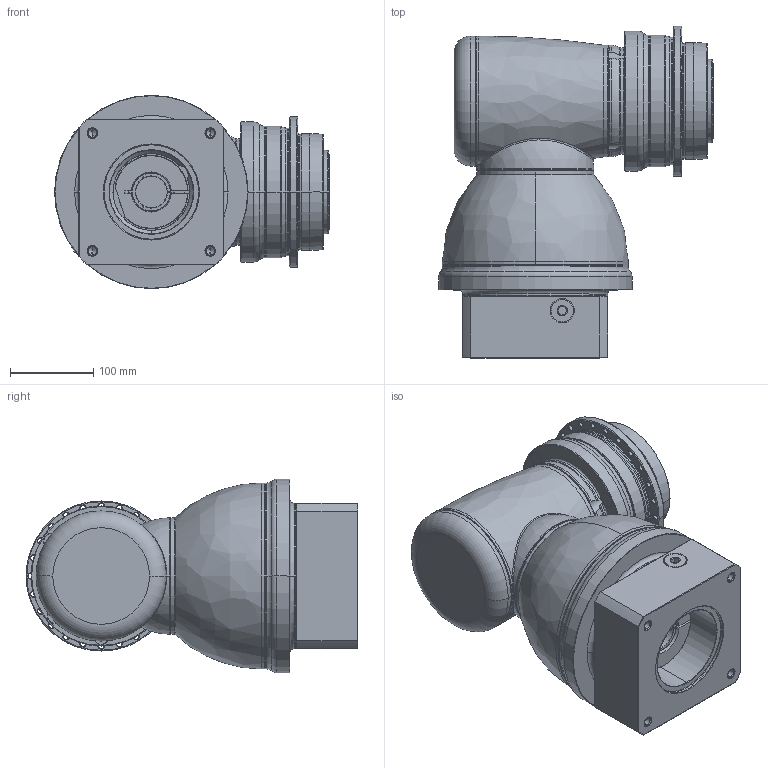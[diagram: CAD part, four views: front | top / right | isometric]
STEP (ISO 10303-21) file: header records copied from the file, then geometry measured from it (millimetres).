
FILE_DESCRIPTION((''),'2;1');
FILE_NAME('APK140_2ST_SBG_38-P0409910201_ASM','2018-10-30T',('d01226'),(''),'PRO/ENGINEER BY PARAMETRIC TECHNOLOGY CORPORATION, 2015240','PRO/ENGINEER BY PARAMETRIC TECHNOLOGY CORPORATION, 2015240','');
FILE_SCHEMA(('CONFIG_CONTROL_DESIGN'));
Length unit declared in the file: millimetre
Products named in the file (13): P0278501003; P0359501103; P1211500001; P1802510011; P1018600002; P1365600001; P1007601001; P1318610201; P0503900012; P0912652001; P0409910201; 21711422019; APK140_2ST_SBG_38-P0409910201_ASM
Assembly tree (12 placements, depth 2):
  APK140_2ST_SBG_38-P0409910201_ASM
    P0278501003
    P0359501103
    P1211500001
    P1802510011
    P1018600002
    P1365600001
    P1007601001
    P1318610201
    P0503900012
    P0912652001
    P0409910201
    21711422019
Bounding box: 329.5 x 398 x 232 mm (x, y, z)
Volume: 12100139.5 mm3; surface area: 880920.7 mm2
Topology: 13 solids, 38 shells, 856 faces, 1963 edges, 1193 vertices
Faces by surface type: cylinder 355, cone 230, plane 144, torus 101, bspline 24, sphere 2
Entity records: 30766 total; most frequent: CARTESIAN_POINT 10739, DIRECTION 4591, ORIENTED_EDGE 3736, AXIS2_PLACEMENT_3D 1967, EDGE_CURVE 1919, VERTEX_POINT 1193, CIRCLE 1100, EDGE_LOOP 1024
